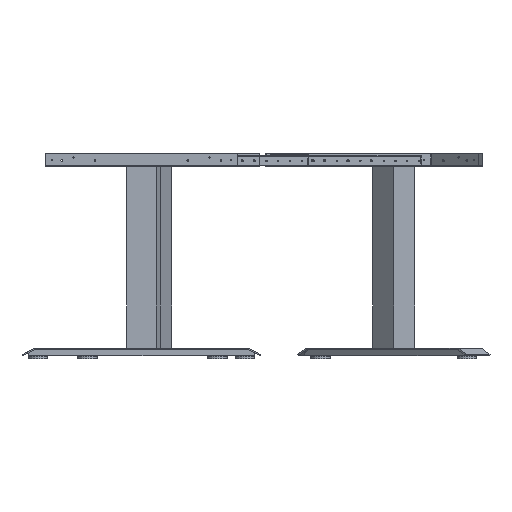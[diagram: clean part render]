
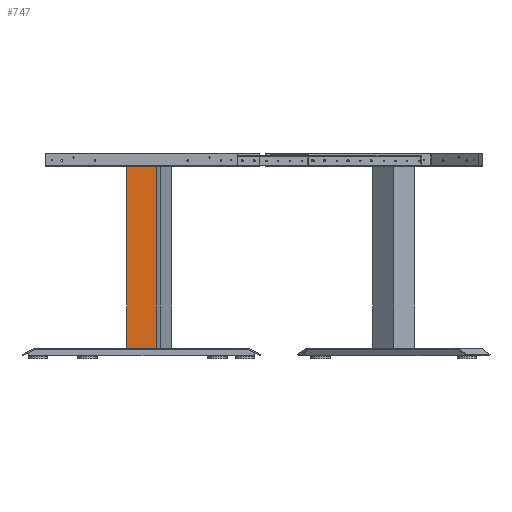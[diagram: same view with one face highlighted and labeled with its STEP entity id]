
A CAD part, left-side view. The second image highlights one B-rep face of the part: STEP entity #747.
In plain terms, the highlighted planar face has unit normal (-1, 0, 0) as drawn and (1, 0, 0) by its records, which use the part's own axes.
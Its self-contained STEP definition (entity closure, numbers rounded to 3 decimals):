
#747 = ADVANCED_FACE( '', ( #1680 ), #1681, .F. );
#1680 = FACE_OUTER_BOUND( '', #2987, .T. );
#1681 = PLANE( '', #2988 );
#2987 = EDGE_LOOP( '', ( #4815, #4816, #4817, #4818 ) );
#2988 = AXIS2_PLACEMENT_3D( '', #4819, #4820, #4821 );
#4815 = ORIENTED_EDGE( '', *, *, #6982, .T. );
#4816 = ORIENTED_EDGE( '', *, *, #6556, .F. );
#4817 = ORIENTED_EDGE( '', *, *, #6965, .F. );
#4818 = ORIENTED_EDGE( '', *, *, #6980, .T. );
#4819 = CARTESIAN_POINT( '', ( 45., -45., 550.5 ) );
#4820 = DIRECTION( '', ( -1., 0., 0. ) );
#4821 = DIRECTION( '', ( 0., 0., 1. ) );
#6556 = EDGE_CURVE( '', #7679, #7674, #7681, .T. );
#6965 = EDGE_CURVE( '', #8355, #7679, #8357, .T. );
#6980 = EDGE_CURVE( '', #8355, #8379, #8381, .T. );
#6982 = EDGE_CURVE( '', #8379, #7674, #8383, .T. );
#7674 = VERTEX_POINT( '', #9291 );
#7679 = VERTEX_POINT( '', #9298 );
#7681 = LINE( '', #9301, #9302 );
#8355 = VERTEX_POINT( '', #10210 );
#8357 = LINE( '', #10213, #10214 );
#8379 = VERTEX_POINT( '', #10242 );
#8381 = LINE( '', #10245, #10246 );
#8383 = LINE( '', #10248, #10249 );
#9291 = CARTESIAN_POINT( '', ( 45., 45., 0. ) );
#9298 = CARTESIAN_POINT( '', ( 45., 45., 550.5 ) );
#9301 = CARTESIAN_POINT( '', ( 45., 45., 550.5 ) );
#9302 = VECTOR( '', #11233, 1000. );
#10210 = CARTESIAN_POINT( '', ( 45., -45., 550.5 ) );
#10213 = CARTESIAN_POINT( '', ( 45., -45., 550.5 ) );
#10214 = VECTOR( '', #11721, 1000. );
#10242 = CARTESIAN_POINT( '', ( 45., -45., 0. ) );
#10245 = CARTESIAN_POINT( '', ( 45., -45., 550.5 ) );
#10246 = VECTOR( '', #11738, 1000. );
#10248 = CARTESIAN_POINT( '', ( 45., -45., 0. ) );
#10249 = VECTOR( '', #11739, 1000. );
#11233 = DIRECTION( '', ( 0., 0., -1. ) );
#11721 = DIRECTION( '', ( 0., 1., 0. ) );
#11738 = DIRECTION( '', ( 0., 0., -1. ) );
#11739 = DIRECTION( '', ( 0., 1., 0. ) );
